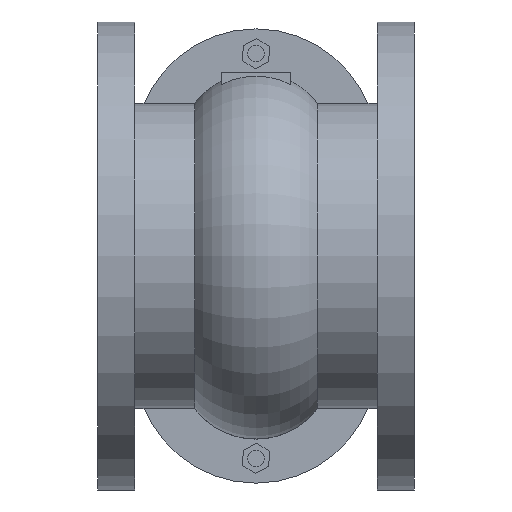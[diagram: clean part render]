
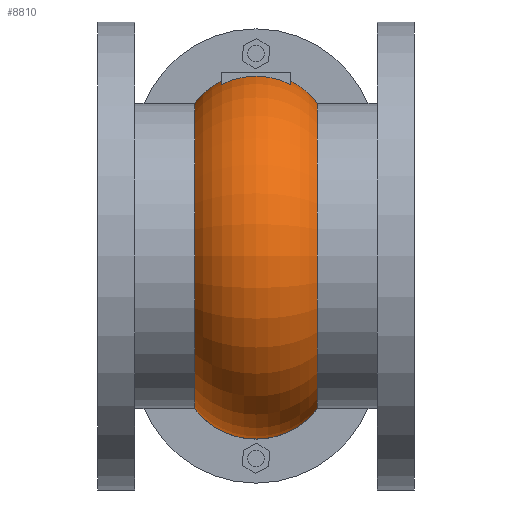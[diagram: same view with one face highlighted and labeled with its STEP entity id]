
A CAD part, front view. The second image highlights one B-rep face of the part: STEP entity #8810.
In plain terms, the highlighted toroidal (fillet/blend) face has major radius 77 mm and minor radius 56 mm.
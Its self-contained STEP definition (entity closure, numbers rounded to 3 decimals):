
#17=TOROIDAL_SURFACE('',#9363,77.,56.);
#409=B_SPLINE_CURVE_WITH_KNOTS('',3,(#13879,#13880,#13881,#13882,#13883,
#13884,#13885,#13886,#13887,#13888,#13889,#13890,#13891,#13892),
 .UNSPECIFIED.,.F.,.F.,(4,2,2,2,2,2,4),(46.265,46.668,
47.696,48.723,49.751,50.779,51.181),
 .UNSPECIFIED.);
#1114=FACE_OUTER_BOUND('',#1622,.T.);
#1622=EDGE_LOOP('',(#7529,#7530,#7531,#7532,#7533,#7534,#7535,#7536,#7537,
#7538));
#3391=CIRCLE('',#9056,127.11);
#3393=CIRCLE('',#9061,127.11);
#3394=CIRCLE('',#9064,56.);
#3396=CIRCLE('',#9066,56.);
#3479=CIRCLE('',#9364,111.);
#3480=CIRCLE('',#9365,111.);
#3481=CIRCLE('',#9366,56.);
#3482=CIRCLE('',#9367,111.);
#3483=CIRCLE('',#9368,111.);
#3913=VERTEX_POINT('',#13872);
#3914=VERTEX_POINT('',#13874);
#3915=VERTEX_POINT('',#13878);
#3917=VERTEX_POINT('',#13899);
#3918=VERTEX_POINT('',#13904);
#3923=VERTEX_POINT('',#13927);
#4252=VERTEX_POINT('',#15075);
#4253=VERTEX_POINT('',#15077);
#4254=VERTEX_POINT('',#15079);
#4255=VERTEX_POINT('',#15081);
#4887=EDGE_CURVE('',#3914,#3913,#3391,.T.);
#4889=EDGE_CURVE('',#3915,#3914,#409,.T.);
#4894=EDGE_CURVE('',#3917,#3915,#3393,.T.);
#4895=EDGE_CURVE('',#3917,#3918,#3394,.T.);
#4901=EDGE_CURVE('',#3923,#3913,#3396,.T.);
#5395=EDGE_CURVE('',#4252,#3923,#3479,.T.);
#5396=EDGE_CURVE('',#4253,#4252,#3480,.T.);
#5397=EDGE_CURVE('',#4254,#4253,#3481,.T.);
#5398=EDGE_CURVE('',#4255,#4254,#3482,.T.);
#5399=EDGE_CURVE('',#3918,#4255,#3483,.T.);
#7529=ORIENTED_EDGE('',*,*,#4887,.T.);
#7530=ORIENTED_EDGE('',*,*,#4901,.F.);
#7531=ORIENTED_EDGE('',*,*,#5395,.F.);
#7532=ORIENTED_EDGE('',*,*,#5396,.F.);
#7533=ORIENTED_EDGE('',*,*,#5397,.F.);
#7534=ORIENTED_EDGE('',*,*,#5398,.F.);
#7535=ORIENTED_EDGE('',*,*,#5399,.F.);
#7536=ORIENTED_EDGE('',*,*,#4895,.F.);
#7537=ORIENTED_EDGE('',*,*,#4894,.T.);
#7538=ORIENTED_EDGE('',*,*,#4889,.T.);
#8810=ADVANCED_FACE('',(#1114),#17,.T.);
#9056=AXIS2_PLACEMENT_3D('',#13875,#10179,#10180);
#9061=AXIS2_PLACEMENT_3D('',#13901,#10193,#10194);
#9064=AXIS2_PLACEMENT_3D('',#13905,#10199,#10200);
#9066=AXIS2_PLACEMENT_3D('',#13942,#10205,#10206);
#9363=AXIS2_PLACEMENT_3D('',#15074,#11186,#11187);
#9364=AXIS2_PLACEMENT_3D('',#15076,#11188,#11189);
#9365=AXIS2_PLACEMENT_3D('',#15078,#11190,#11191);
#9366=AXIS2_PLACEMENT_3D('',#15080,#11192,#11193);
#9367=AXIS2_PLACEMENT_3D('',#15082,#11194,#11195);
#9368=AXIS2_PLACEMENT_3D('',#15083,#11196,#11197);
#10179=DIRECTION('center_axis',(-1.,0.,0.));
#10180=DIRECTION('ref_axis',(0.,0.,-1.));
#10193=DIRECTION('center_axis',(1.,0.,0.));
#10194=DIRECTION('ref_axis',(0.,0.,-1.));
#10199=DIRECTION('center_axis',(0.,1.,0.));
#10200=DIRECTION('ref_axis',(-1.,0.,0.));
#10205=DIRECTION('center_axis',(0.,1.,0.));
#10206=DIRECTION('ref_axis',(-1.,0.,0.));
#11186=DIRECTION('center_axis',(1.,0.,0.));
#11187=DIRECTION('ref_axis',(0.,0.,-1.));
#11188=DIRECTION('center_axis',(-1.,0.,0.));
#11189=DIRECTION('ref_axis',(0.,1.,0.));
#11190=DIRECTION('center_axis',(-1.,0.,0.));
#11191=DIRECTION('ref_axis',(0.,1.,0.));
#11192=DIRECTION('center_axis',(0.,1.,0.));
#11193=DIRECTION('ref_axis',(1.,0.,0.));
#11194=DIRECTION('center_axis',(1.,0.,0.));
#11195=DIRECTION('ref_axis',(0.,1.,0.));
#11196=DIRECTION('center_axis',(1.,0.,0.));
#11197=DIRECTION('ref_axis',(0.,1.,0.));
#13872=CARTESIAN_POINT('',(-81.567,-76.827,127.11));
#13874=CARTESIAN_POINT('',(-81.567,-101.827,124.627));
#13875=CARTESIAN_POINT('Origin',(-81.567,-76.827,0.));
#13878=CARTESIAN_POINT('',(-31.567,-101.827,124.627));
#13879=CARTESIAN_POINT('Ctrl Pts',(-31.567,-101.827,124.627));
#13880=CARTESIAN_POINT('Ctrl Pts',(-32.831,-101.827,
125.27));
#13881=CARTESIAN_POINT('Ctrl Pts',(-34.094,-101.827,
125.851));
#13882=CARTESIAN_POINT('Ctrl Pts',(-38.493,-101.827,127.689));
#13883=CARTESIAN_POINT('Ctrl Pts',(-42.076,-101.827,
128.818));
#13884=CARTESIAN_POINT('Ctrl Pts',(-49.4,-101.827,
130.288));
#13885=CARTESIAN_POINT('Ctrl Pts',(-53.141,-101.827,
130.629));
#13886=CARTESIAN_POINT('Ctrl Pts',(-59.993,-101.827,
130.629));
#13887=CARTESIAN_POINT('Ctrl Pts',(-63.734,-101.827,
130.288));
#13888=CARTESIAN_POINT('Ctrl Pts',(-71.058,-101.827,128.818));
#13889=CARTESIAN_POINT('Ctrl Pts',(-74.641,-101.827,
127.689));
#13890=CARTESIAN_POINT('Ctrl Pts',(-79.04,-101.827,125.851));
#13891=CARTESIAN_POINT('Ctrl Pts',(-80.303,-101.827,
125.27));
#13892=CARTESIAN_POINT('Ctrl Pts',(-81.567,-101.827,124.627));
#13899=CARTESIAN_POINT('',(-31.567,-76.827,127.11));
#13901=CARTESIAN_POINT('Origin',(-31.567,-76.827,0.));
#13904=CARTESIAN_POINT('',(-12.07,-76.827,111.));
#13905=CARTESIAN_POINT('Origin',(-56.567,-76.827,77.));
#13927=CARTESIAN_POINT('',(-101.064,-76.827,111.));
#13942=CARTESIAN_POINT('Origin',(-56.567,-76.827,77.));
#15074=CARTESIAN_POINT('Origin',(-56.567,-76.827,0.));
#15075=CARTESIAN_POINT('',(-101.064,-187.827,0.));
#15076=CARTESIAN_POINT('Origin',(-101.064,-76.827,0.));
#15077=CARTESIAN_POINT('',(-101.064,-76.827,-111.));
#15078=CARTESIAN_POINT('Origin',(-101.064,-76.827,0.));
#15079=CARTESIAN_POINT('',(-12.07,-76.827,-111.));
#15080=CARTESIAN_POINT('Origin',(-56.567,-76.827,-77.));
#15081=CARTESIAN_POINT('',(-12.07,-187.827,0.));
#15082=CARTESIAN_POINT('Origin',(-12.07,-76.827,0.));
#15083=CARTESIAN_POINT('Origin',(-12.07,-76.827,0.));
